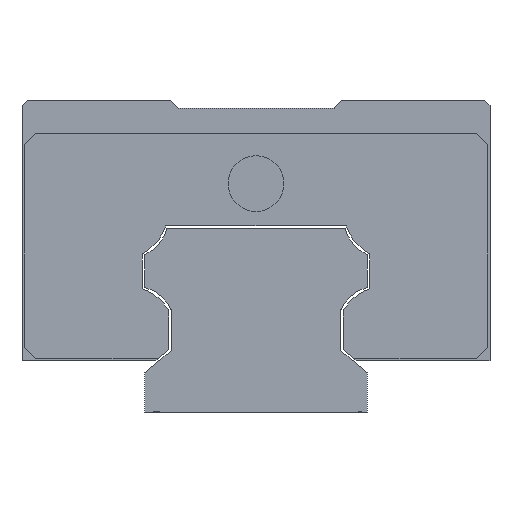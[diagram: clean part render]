
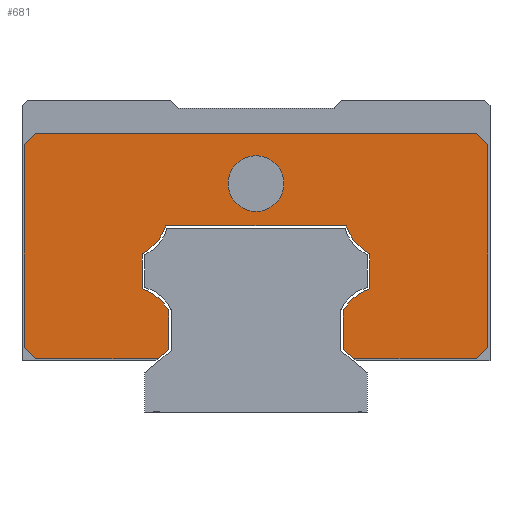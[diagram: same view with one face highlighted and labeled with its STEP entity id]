
A CAD part, left-side view. The second image highlights one B-rep face of the part: STEP entity #681.
In plain terms, the highlighted planar face has unit normal (-1, 0, 0).
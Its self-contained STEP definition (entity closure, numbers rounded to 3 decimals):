
#520=FACE_BOUND('',#963,.T.);
#521=FACE_BOUND('',#964,.T.);
#681=ADVANCED_FACE('',(#520,#521),#799,.F.);
#799=PLANE('',#2617);
#963=EDGE_LOOP('',(#1306));
#964=EDGE_LOOP('',(#1307,#1308,#1309,#1310,#1311,#1312,#1313,#1314,#1315,
#1316,#1317,#1318,#1319,#1320,#1321,#1322,#1323,#1324,#1325,#1326));
#1128=CIRCLE('',#2601,4.5);
#1129=CIRCLE('',#2604,4.5);
#1130=CIRCLE('',#2607,4.5);
#1131=CIRCLE('',#2610,4.5);
#1132=CIRCLE('',#2616,2.5);
#1306=ORIENTED_EDGE('',*,*,#2027,.F.);
#1307=ORIENTED_EDGE('',*,*,#2025,.F.);
#1308=ORIENTED_EDGE('',*,*,#2028,.T.);
#1309=ORIENTED_EDGE('',*,*,#2020,.F.);
#1310=ORIENTED_EDGE('',*,*,#2019,.F.);
#1311=ORIENTED_EDGE('',*,*,#2012,.F.);
#1312=ORIENTED_EDGE('',*,*,#2006,.F.);
#1313=ORIENTED_EDGE('',*,*,#2005,.F.);
#1314=ORIENTED_EDGE('',*,*,#1997,.F.);
#1315=ORIENTED_EDGE('',*,*,#1996,.F.);
#1316=ORIENTED_EDGE('',*,*,#1988,.F.);
#1317=ORIENTED_EDGE('',*,*,#1987,.F.);
#1318=ORIENTED_EDGE('',*,*,#1979,.F.);
#1319=ORIENTED_EDGE('',*,*,#1977,.F.);
#1320=ORIENTED_EDGE('',*,*,#1972,.F.);
#1321=ORIENTED_EDGE('',*,*,#1964,.F.);
#1322=ORIENTED_EDGE('',*,*,#2029,.T.);
#1323=ORIENTED_EDGE('',*,*,#1960,.F.);
#1324=ORIENTED_EDGE('',*,*,#2030,.T.);
#1325=ORIENTED_EDGE('',*,*,#1956,.F.);
#1326=ORIENTED_EDGE('',*,*,#2031,.T.);
#1764=VERTEX_POINT('',#3425);
#1765=VERTEX_POINT('',#3427);
#1768=VERTEX_POINT('',#3434);
#1769=VERTEX_POINT('',#3436);
#1772=VERTEX_POINT('',#3443);
#1773=VERTEX_POINT('',#3445);
#1774=VERTEX_POINT('',#3449);
#1780=VERTEX_POINT('',#3463);
#1785=VERTEX_POINT('',#3475);
#1786=VERTEX_POINT('',#3479);
#1791=VERTEX_POINT('',#3492);
#1792=VERTEX_POINT('',#3496);
#1797=VERTEX_POINT('',#3509);
#1798=VERTEX_POINT('',#3513);
#1803=VERTEX_POINT('',#3526);
#1804=VERTEX_POINT('',#3530);
#1808=VERTEX_POINT('',#3540);
#1814=VERTEX_POINT('',#3554);
#1818=VERTEX_POINT('',#3563);
#1819=VERTEX_POINT('',#3565);
#1820=VERTEX_POINT('',#3569);
#1956=EDGE_CURVE('',#1764,#1765,#2225,.T.);
#1960=EDGE_CURVE('',#1768,#1769,#2229,.T.);
#1964=EDGE_CURVE('',#1772,#1773,#2233,.T.);
#1972=EDGE_CURVE('',#1773,#1774,#2241,.T.);
#1977=EDGE_CURVE('',#1774,#1780,#2246,.T.);
#1979=EDGE_CURVE('',#1780,#1785,#1128,.T.);
#1987=EDGE_CURVE('',#1785,#1786,#2254,.T.);
#1988=EDGE_CURVE('',#1786,#1791,#1129,.T.);
#1996=EDGE_CURVE('',#1791,#1792,#2262,.T.);
#1997=EDGE_CURVE('',#1792,#1797,#1130,.T.);
#2005=EDGE_CURVE('',#1797,#1798,#2270,.T.);
#2006=EDGE_CURVE('',#1798,#1803,#1131,.T.);
#2012=EDGE_CURVE('',#1803,#1804,#2276,.T.);
#2019=EDGE_CURVE('',#1804,#1808,#2283,.T.);
#2020=EDGE_CURVE('',#1808,#1814,#2284,.T.);
#2025=EDGE_CURVE('',#1818,#1819,#2289,.T.);
#2027=EDGE_CURVE('',#1820,#1820,#1132,.T.);
#2028=EDGE_CURVE('',#1818,#1814,#2291,.T.);
#2029=EDGE_CURVE('',#1772,#1769,#2292,.T.);
#2030=EDGE_CURVE('',#1768,#1765,#2293,.T.);
#2031=EDGE_CURVE('',#1764,#1819,#2294,.T.);
#2225=LINE('',#3426,#2409);
#2229=LINE('',#3435,#2413);
#2233=LINE('',#3444,#2417);
#2241=LINE('',#3460,#2425);
#2246=LINE('',#3470,#2430);
#2254=LINE('',#3489,#2438);
#2262=LINE('',#3506,#2446);
#2270=LINE('',#3523,#2454);
#2276=LINE('',#3537,#2460);
#2283=LINE('',#3551,#2467);
#2284=LINE('',#3553,#2468);
#2289=LINE('',#3564,#2473);
#2291=LINE('',#3570,#2475);
#2292=LINE('',#3571,#2476);
#2293=LINE('',#3572,#2477);
#2294=LINE('',#3573,#2478);
#2409=VECTOR('',#2818,1.);
#2413=VECTOR('',#2824,1.);
#2417=VECTOR('',#2830,1.);
#2425=VECTOR('',#2840,1.);
#2430=VECTOR('',#2847,1.);
#2438=VECTOR('',#2863,1.);
#2446=VECTOR('',#2877,1.);
#2454=VECTOR('',#2891,1.);
#2460=VECTOR('',#2903,1.);
#2467=VECTOR('',#2912,1.);
#2468=VECTOR('',#2915,1.);
#2473=VECTOR('',#2922,1.);
#2475=VECTOR('',#2928,1.);
#2476=VECTOR('',#2929,1.);
#2477=VECTOR('',#2930,1.);
#2478=VECTOR('',#2931,1.);
#2601=AXIS2_PLACEMENT_3D('',#3474,#2852,#2853);
#2604=AXIS2_PLACEMENT_3D('',#3491,#2866,#2867);
#2607=AXIS2_PLACEMENT_3D('',#3508,#2880,#2881);
#2610=AXIS2_PLACEMENT_3D('',#3525,#2894,#2895);
#2616=AXIS2_PLACEMENT_3D('',#3568,#2926,#2927);
#2617=AXIS2_PLACEMENT_3D('',#3574,#2932,#2933);
#2818=DIRECTION('',(0.,-1.,0.));
#2824=DIRECTION('',(0.,0.,-1.));
#2830=DIRECTION('',(0.,1.,0.));
#2840=DIRECTION('',(0.,0.766,0.643));
#2847=DIRECTION('',(0.,0.,1.));
#2852=DIRECTION('',(1.,0.,0.));
#2853=DIRECTION('',(0.,1.,0.));
#2863=DIRECTION('',(0.,0.,1.));
#2866=DIRECTION('',(1.,0.,0.));
#2867=DIRECTION('',(0.,1.,0.));
#2877=DIRECTION('',(0.,1.,0.));
#2880=DIRECTION('',(1.,0.,0.));
#2881=DIRECTION('',(0.,-1.,0.));
#2891=DIRECTION('',(0.,0.,-1.));
#2894=DIRECTION('',(1.,0.,0.));
#2895=DIRECTION('',(0.,-1.,0.));
#2903=DIRECTION('',(0.,0.,-1.));
#2912=DIRECTION('',(0.,0.766,-0.643));
#2915=DIRECTION('',(0.,1.,0.));
#2922=DIRECTION('',(0.,0.,1.));
#2926=DIRECTION('',(-1.,0.,0.));
#2927=DIRECTION('',(0.,1.,0.));
#2928=DIRECTION('',(0.,-0.707,-0.707));
#2929=DIRECTION('',(0.,-0.707,0.707));
#2930=DIRECTION('',(0.,0.707,0.707));
#2931=DIRECTION('',(0.,0.707,-0.707));
#2932=DIRECTION('',(1.,0.,0.));
#2933=DIRECTION('',(0.,0.,-1.));
#3425=CARTESIAN_POINT('',(-24.7,19.8,25.));
#3426=CARTESIAN_POINT('',(-24.7,20.8,25.));
#3427=CARTESIAN_POINT('',(-24.7,-19.8,25.));
#3434=CARTESIAN_POINT('',(-24.7,-20.8,24.));
#3435=CARTESIAN_POINT('',(-24.7,-20.8,25.));
#3436=CARTESIAN_POINT('',(-24.7,-20.8,5.8));
#3443=CARTESIAN_POINT('',(-24.7,-19.8,4.8));
#3444=CARTESIAN_POINT('',(-24.7,-20.8,4.8));
#3445=CARTESIAN_POINT('',(-24.7,-8.762,4.8));
#3449=CARTESIAN_POINT('',(-24.7,-7.816,5.593));
#3460=CARTESIAN_POINT('',(-24.7,-8.762,4.8));
#3463=CARTESIAN_POINT('',(-24.7,-7.816,9.073));
#3470=CARTESIAN_POINT('',(-24.7,-7.816,5.593));
#3474=CARTESIAN_POINT('',(-24.7,-11.722,6.839));
#3475=CARTESIAN_POINT('',(-24.7,-10.2,11.073));
#3479=CARTESIAN_POINT('',(-24.7,-10.2,14.189));
#3489=CARTESIAN_POINT('',(-24.7,-10.2,11.073));
#3491=CARTESIAN_POINT('',(-24.7,-12.357,18.139));
#3492=CARTESIAN_POINT('',(-24.7,-8.093,16.7));
#3496=CARTESIAN_POINT('',(-24.7,8.093,16.7));
#3506=CARTESIAN_POINT('',(-24.7,-8.093,16.7));
#3508=CARTESIAN_POINT('',(-24.7,12.357,18.139));
#3509=CARTESIAN_POINT('',(-24.7,10.2,14.189));
#3513=CARTESIAN_POINT('',(-24.7,10.2,11.073));
#3523=CARTESIAN_POINT('',(-24.7,10.2,14.189));
#3525=CARTESIAN_POINT('',(-24.7,11.722,6.839));
#3526=CARTESIAN_POINT('',(-24.7,7.816,9.073));
#3530=CARTESIAN_POINT('',(-24.7,7.816,5.593));
#3537=CARTESIAN_POINT('',(-24.7,7.816,9.073));
#3540=CARTESIAN_POINT('',(-24.7,8.762,4.8));
#3551=CARTESIAN_POINT('',(-24.7,7.816,5.593));
#3553=CARTESIAN_POINT('',(-24.7,8.762,4.8));
#3554=CARTESIAN_POINT('',(-24.7,19.8,4.8));
#3563=CARTESIAN_POINT('',(-24.7,20.8,5.8));
#3564=CARTESIAN_POINT('',(-24.7,20.8,4.8));
#3565=CARTESIAN_POINT('',(-24.7,20.8,24.));
#3568=CARTESIAN_POINT('',(-24.7,0.,20.5));
#3569=CARTESIAN_POINT('',(-24.7,2.5,20.5));
#3570=CARTESIAN_POINT('',(-24.7,19.8,4.8));
#3571=CARTESIAN_POINT('',(-24.7,-20.8,5.8));
#3572=CARTESIAN_POINT('',(-24.7,-19.8,25.));
#3573=CARTESIAN_POINT('',(-24.7,20.8,24.));
#3574=CARTESIAN_POINT('',(-24.7,-11.722,6.839));
